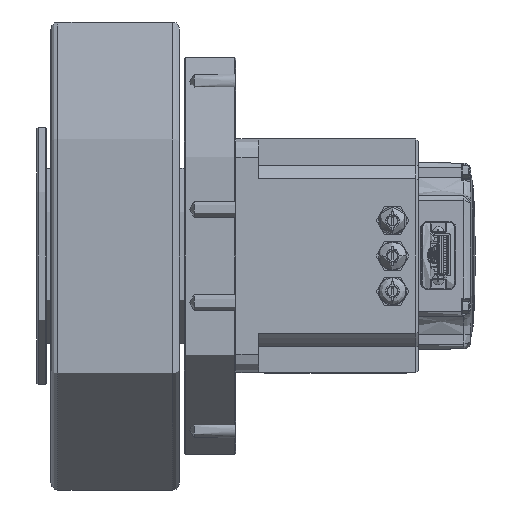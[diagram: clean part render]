
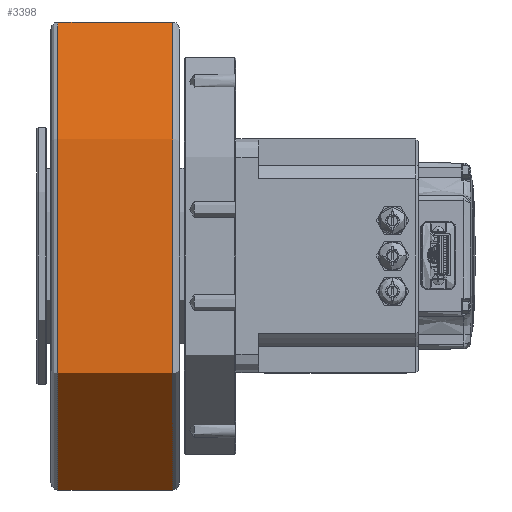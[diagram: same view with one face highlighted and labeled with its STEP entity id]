
A CAD part, front view. The second image highlights one B-rep face of the part: STEP entity #3398.
In plain terms, the highlighted cylindrical face has radius 100 mm (diameter 200 mm), a partial arc.
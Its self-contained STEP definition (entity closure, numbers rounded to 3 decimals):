
#576=CARTESIAN_POINT('',(52.,0.,0.));
#577=DIRECTION('',(1.,0.,0.));
#578=DIRECTION('',(0.,0.,1.));
#579=AXIS2_PLACEMENT_3D('',#576,#577,#578);
#581=DIRECTION('',(1.,0.,0.));
#582=VECTOR('',#581,49.);
#583=CARTESIAN_POINT('',(3.,0.,-100.));
#584=LINE('',#583,#582);
#585=DIRECTION('',(1.,0.,0.));
#586=VECTOR('',#585,49.);
#587=CARTESIAN_POINT('',(3.,0.,100.));
#588=LINE('',#587,#586);
#604=CARTESIAN_POINT('',(3.,0.,0.));
#605=DIRECTION('',(-1.,0.,0.));
#606=DIRECTION('',(0.,0.,-1.));
#607=AXIS2_PLACEMENT_3D('',#604,#605,#606);
#2510=CARTESIAN_POINT('',(3.,0.,100.));
#2512=VERTEX_POINT('',#2510);
#2565=CARTESIAN_POINT('',(52.,0.,100.));
#2566=CARTESIAN_POINT('',(52.,0.,-100.));
#2567=VERTEX_POINT('',#2565);
#2568=VERTEX_POINT('',#2566);
#2666=CARTESIAN_POINT('',(3.,0.,-100.));
#2667=VERTEX_POINT('',#2666);
#3384=CARTESIAN_POINT('',(0.,0.,0.));
#3385=DIRECTION('',(-1.,0.,0.));
#3386=DIRECTION('',(0.,0.,1.));
#3387=AXIS2_PLACEMENT_3D('',#3384,#3385,#3386);
#3388=CYLINDRICAL_SURFACE('',#3387,100.);
#3390=ORIENTED_EDGE('',*,*,#3389,.F.);
#3392=ORIENTED_EDGE('',*,*,#3391,.T.);
#3394=ORIENTED_EDGE('',*,*,#3393,.T.);
#3395=ORIENTED_EDGE('',*,*,#3377,.T.);
#3396=EDGE_LOOP('',(#3390,#3392,#3394,#3395));
#3397=FACE_OUTER_BOUND('',#3396,.F.);
#3398=ADVANCED_FACE('',(#3397),#3388,.T.);
#580=CIRCLE('',#579,100.);
#608=CIRCLE('',#607,100.);
#3377=EDGE_CURVE('',#2567,#2568,#580,.T.);
#3389=EDGE_CURVE('',#2667,#2568,#584,.T.);
#3391=EDGE_CURVE('',#2667,#2512,#608,.T.);
#3393=EDGE_CURVE('',#2512,#2567,#588,.T.);
